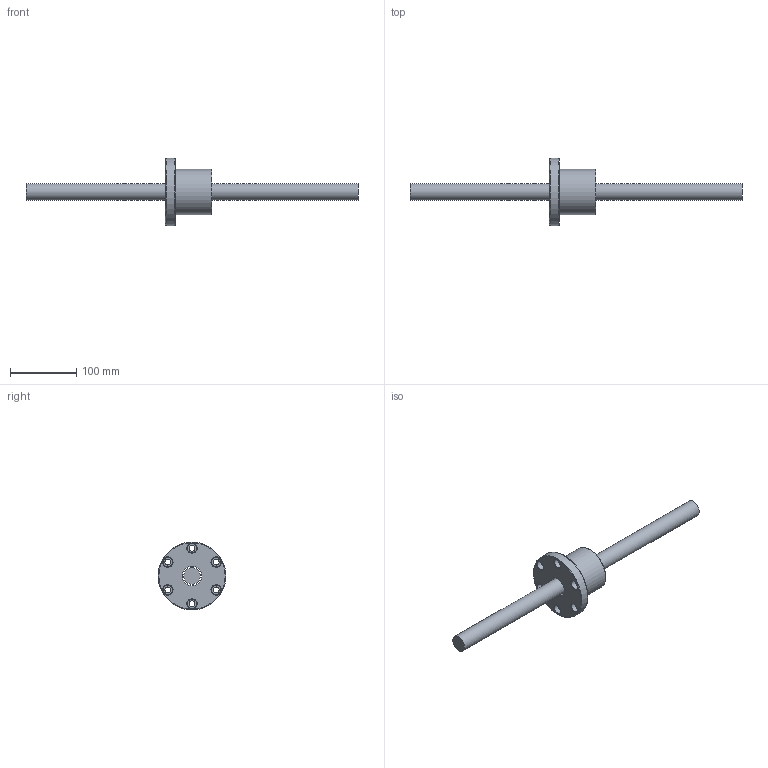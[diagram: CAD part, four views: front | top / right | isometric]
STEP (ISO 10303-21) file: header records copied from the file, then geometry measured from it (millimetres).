
FILE_DESCRIPTION (( 'STEP AP203' ), '1' );
FILE_NAME ('SFV02510N-2.7.step', '2024-05-20T03:38:32', ( '' ), ( '' ), 'SwSTEP 2.0', 'SolidWorks 2022', '' );
FILE_SCHEMA (( 'CONFIG_CONTROL_DESIGN' ));
Length unit declared in the file: millimetre
Products named in the file (1): SFV02510N-2.7
Bounding box: 500 x 102 x 102 mm (x, y, z)
Volume: 507743.7 mm3; surface area: 80890 mm2
Topology: 2 solids, 2 shells, 57 faces, 130 edges, 84 vertices
Faces by surface type: cylinder 24, cone 13, plane 12, bspline 5, torus 3
Full cylindrical faces by diameter (mm): 4 x1, 7 x6, 9 x6, 14 x6, 25 x1, 29.7 x1, 68 x1, 102 x1
Entity records: 3674 total; most frequent: CARTESIAN_POINT 2669, DIRECTION 194, ORIENTED_EDGE 130, EDGE_LOOP 108, AXIS2_PLACEMENT_3D 96, FACE_OUTER_BOUND 72, EDGE_CURVE 65, VERTEX_POINT 61
